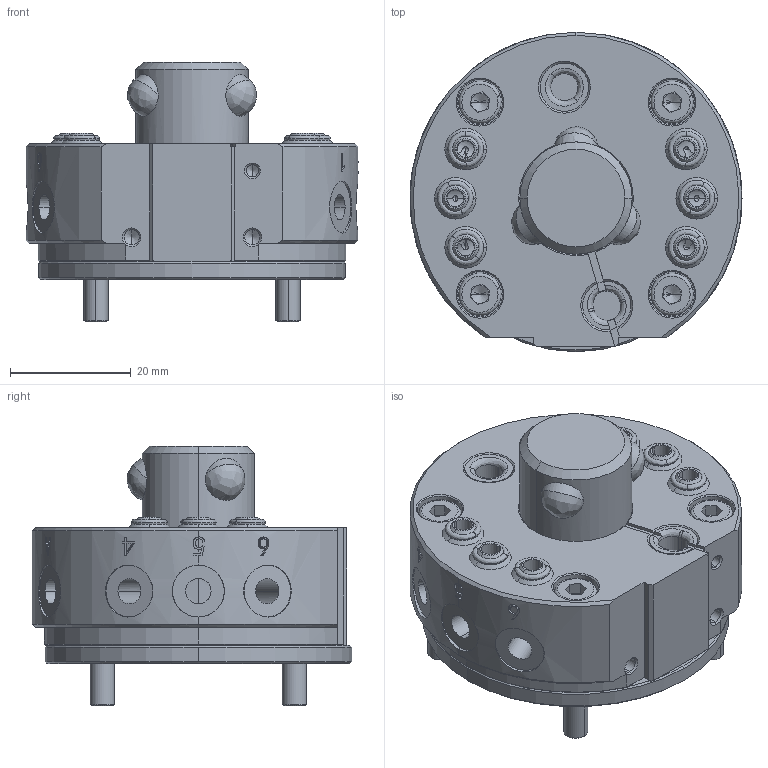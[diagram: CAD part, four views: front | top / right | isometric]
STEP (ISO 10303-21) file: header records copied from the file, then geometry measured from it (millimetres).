
FILE_DESCRIPTION (( 'STEP AP203' ), '1' );
FILE_NAME ('QCA-15R.STEP', '2024-03-19T07:32:11', ( '微软用户' ), ( '微软中国' ), 'SwSTEP 2.0', 'SolidWorks 2018', '' );
FILE_SCHEMA (( 'CONFIG_CONTROL_DESIGN' ));
Length unit declared in the file: millimetre
Products named in the file (1): QCA-15R
Bounding box: 55 x 52.9 x 43 mm (x, y, z)
Volume: 52000 mm3; surface area: 14798.7 mm2
Topology: 1 solids, 17 shells, 717 faces, 1722 edges, 1065 vertices
Faces by surface type: plane 232, cylinder 209, cone 202, bspline 74
Entity records: 25276 total; most frequent: CARTESIAN_POINT 8796, DIRECTION 3497, ORIENTED_EDGE 3360, EDGE_CURVE 1680, AXIS2_PLACEMENT_3D 1376, VERTEX_POINT 1065, EDGE_LOOP 801, LINE 745
